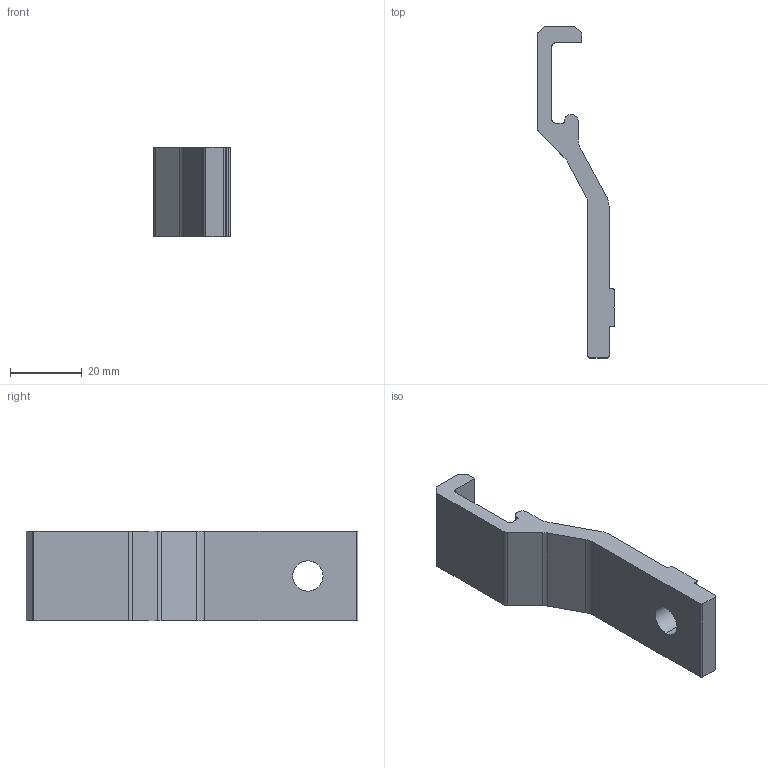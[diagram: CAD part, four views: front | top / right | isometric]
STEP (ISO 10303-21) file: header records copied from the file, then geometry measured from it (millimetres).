
FILE_DESCRIPTION (( 'STEP AP214' ), '1' );
FILE_NAME ('FGRB 16x54.step', '2017-04-05T07:37:33', ( '' ), ( '' ), 'SwSTEP 2.0', 'SolidWorks 2015', '' );
FILE_SCHEMA (( 'AUTOMOTIVE_DESIGN' ));
Length unit declared in the file: millimetre
Products named in the file (1): FGRB 16x54
Bounding box: 21.5 x 92.7 x 25 mm (x, y, z)
Volume: 14085.4 mm3; surface area: 6946.2 mm2
Topology: 1 solids, 1 shells, 46 faces, 133 edges, 88 vertices
Faces by surface type: plane 27, cylinder 19
Entity records: 1557 total; most frequent: CARTESIAN_POINT 280, ORIENTED_EDGE 266, DIRECTION 261, EDGE_CURVE 133, LINE 91, VECTOR 91, VERTEX_POINT 88, AXIS2_PLACEMENT_3D 85
